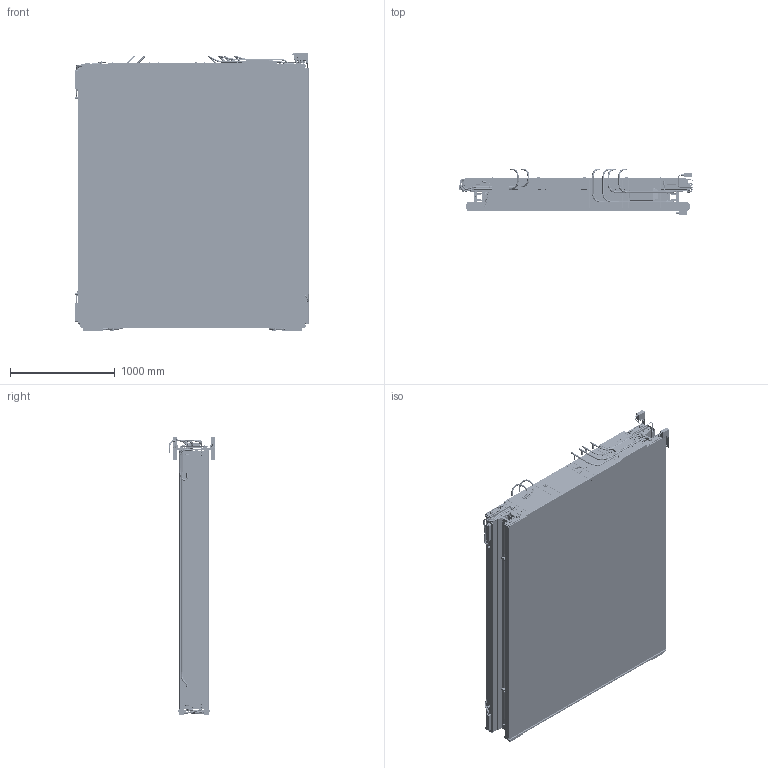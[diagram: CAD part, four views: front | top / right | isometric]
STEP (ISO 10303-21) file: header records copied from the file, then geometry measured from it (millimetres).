
FILE_DESCRIPTION(/* description */ (''),/* implementation_level */ '2;1');
FILE_NAME(/* name */ 'A_030930_mb1_2_1_4_th_phi_R_carters.stp',/* time_stamp */ '2017-05-18T17:36:37+02:00',/* author */ (''),/* organization */ (''),/* preprocessor_version */ 'ST-DEVELOPER v16',/* originating_system */ 'SIEMENS PLM Software NX 10.0',/* authorisation */ '');
FILE_SCHEMA (('AUTOMOTIVE_DESIGN { 1 0 10303 214 3 1 1 1 }'));
Products named in the file (203): hv_grnd_pin; busbar_pin; rivetto_4; spina_5x26; elicoil; rivetto_svas_m10; molla_new2; power_supply_model; connett_fe_littl; tappo1_4; connett_test_p; mb45_phi_lam_vars; mb3c_phi_lam_vars; mb3_phi_lam_vars; mb2c_th_lam_vars; mb2c_phi_lam_vars; mb2_th_lam_vars; mb2_phi_lam_vars; mb3c_th_lam_vars; mb45c_phi_lam_vars; mb3_th_lam_vars; mb48_phi_lam_vars; mb1_phi_lam_vars; mb1_th_lam_vars; mb49_phi_lam_vars; mb1c_phi_lam_vars; mb1c_th_lam_vars; cover_new2; axis; tappo1_8; colon_front_000308; block_sh12_000301; mb1_q1_wire_2d_n2; crocicchio; BLK1276; BLK1275; BLK1274; BLK1273; BLK1272; BLK1270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
Assembly tree (662 placements, depth 9):
  030930_mb1_2_1_4_th_phi_R_carters
    mb1_2_1_4_ass
      mb1_2_1_4_ch
        mb1_phi_superlay  x2
          mb1_q1_ass_lamiere
            mb1_q1_b1
            mb1_q1_b1_up
            cms_mb_02_018  x4
          mb1_q1_ass_beams1_8
            mb1_q1_wire_2d_ass_n2
              crocicchio
              mb1_q1_wire_2d_n2  x196
          mb1_q1_ass_lateral
            as_angle  x2
              block_sh12_000301
              colon_front_000308
            cms_mb_02_014
          vite_m4
          mb1_q1_cover_hv_ass
            cms_mb_02_026
            cms_mb_02_021
              tappo1_8  x2
              axis  x28
            as_hv_conn_cover  x2
              cover_new2
          vars
            mb1c_th_vars
              mb1c_th_lam_vars
            mb1c_phi_vars
              mb1c_phi_lam_vars
            mb49_phi_vars
              mb49_phi_lam_vars
            mb1_th_vars
              mb1_th_lam_vars
            mb1_phi_vars
              mb1_phi_lam_vars
            mb48_phi_vars
              mb48_phi_lam_vars
            mb3_th_vars
              mb3_th_lam_vars
            mb45c_phi_vars
              mb45c_phi_lam_vars
            mb3c_th_vars
              mb3c_th_lam_vars
            mb2_phi_vars
              mb2_phi_lam_vars
            mb2_th_vars
              mb2_th_lam_vars
            mb2c_phi_vars
              mb2c_phi_lam_vars
            mb2c_th_vars
              mb2c_th_lam_vars
            mb3_phi_vars
              mb3_phi_lam_vars
            mb3c_phi_vars
              mb3c_phi_lam_vars
            mb45_phi_vars
              mb45_phi_lam_vars
          2109_ass
            2109_cms_mb_02_041
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Bounding box: 2232.82 x 442.79 x 2646.12 mm (x, y, z)
Volume: 650411909.1 mm3; surface area: 124202664.6 mm2
Topology: 334 solids, 606 shells, 16204 faces, 52650 edges, 44940 vertices
Faces by surface type: plane 9402, cylinder 5053, cone 1233, torus 302, bspline 159, sphere 55
Full cylindrical faces by diameter (mm): 1 x191, 1.675 x12, 2.459 x3, 2.594 x54, 3 x78, 3.2 x12, 3.25 x4, 3.3 x36, 3.432 x437, 3.5 x57, 3.778 x7, 4 x39, 4.5 x1, 4.8 x32, 5 x91, 5.188 x40, 5.5 x272, 6 x39, 6.4 x37, 6.5 x18, 7 x3, 7.188 x4, 7.5 x72, 8 x63, 8.6 x6, 8.782 x28, 8.8 x20, 8.933 x24, 8.985 x24, 9.391 x48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
Entity records: 321500 total; most frequent: CARTESIAN_POINT 89785, DIRECTION 39307, ORIENTED_EDGE 39081, EDGE_CURVE 19753, AXIS2_PLACEMENT_3D 14342, VERTEX_POINT 12570, EDGE_LOOP 11183, LINE 10623
